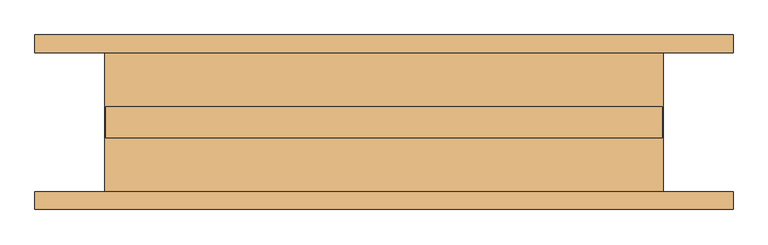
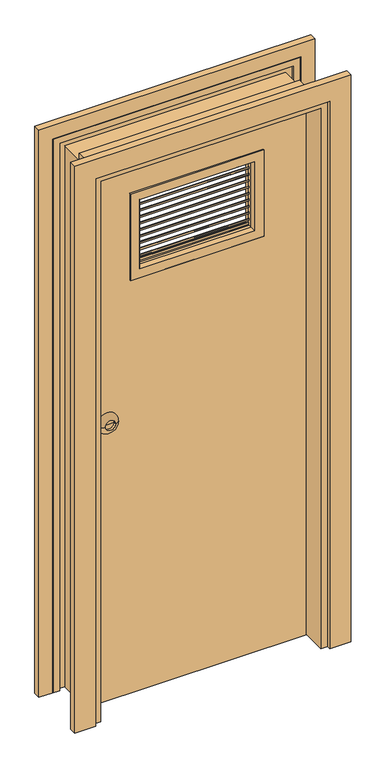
"""IFC4 building model written with IfcOpenShell, lengths in millimetres: door geometry, Door_Amweld_Integral_Louvers : Door_Amweld_Integral_Louvers."""

from ifc_helpers import new_model, si_unit, point, frame, origin, place, context, project, spatial, polyline, circle_curve, ellipse_curve, trimmed, outline, extrude, faceted_brep, source, transform, mapped, element, save
from ifc_brep_helpers import plane_surface, revolved_surface, advanced_brep


def door_bb8a4608(model_context):
    return source(origin(), model_context, "Body", "SolidModel", [
        advanced_brep(
        [(-361.9, 22.225, 1066.8), (-323.8, 22.225, 1066.8), (-285.7, 22.225, 1066.8), (-342.85, 41.275, 1066.8), (-304.75, 41.275, 1066.8), (-342.85, 31.75, 1066.8), (-304.75, 31.75, 1066.8), (-323.8, 31.75, 1066.8)],
        [
            (0, 1),
            (1, 2),
            (2, 0, circle_curve(frame((-323.8, 22.225, 1066.8), z_axis=(0.0, -1.0, 0.0), x_axis=(1.0, 0.0, 0.0)), 38.1)),
            (0, 2, circle_curve(frame((-323.8, 22.225, 1066.8), z_axis=(0.0, -1.0, 0.0), x_axis=(1.0, 0.0, 0.0)), 38.1)),
            (3, 0, circle_curve(frame((-342.85, 22.225, 1066.8), z_axis=(0.0, 0.0, 1.0), x_axis=(-1.0, 0.0, 0.0)), 19.05)),
            (2, 4, circle_curve(frame((-304.75, 22.225, 1066.8), z_axis=(0.0, 0.0, 1.0), x_axis=(1.0, 0.0, 0.0)), 19.05)),
            (4, 3, circle_curve(frame((-323.8, 41.275, 1066.8), z_axis=(0.0, -1.0, 0.0), x_axis=(1.0, 0.0, 0.0)), 19.05)),
            (3, 4, circle_curve(frame((-323.8, 41.275, 1066.8), z_axis=(0.0, -1.0, 0.0), x_axis=(1.0, 0.0, 0.0)), 19.05)),
            (5, 3),
            (4, 6),
            (6, 5, circle_curve(frame((-323.8, 31.75, 1066.8), z_axis=(0.0, -1.0, 0.0), x_axis=(1.0, 0.0, 0.0)), 19.05)),
            (5, 6, circle_curve(frame((-323.8, 31.75, 1066.8), z_axis=(0.0, -1.0, 0.0), x_axis=(1.0, 0.0, 0.0)), 19.05)),
            (7, 5),
            (6, 7),
        ],
        [
            plane_surface(frame((-323.8, 22.225, 1066.8), z_axis=(0.0, -1.0, 0.0), x_axis=(1.0, 0.0, 0.0))),
            revolved_surface(trimmed(ellipse_curve(frame((-304.75, 22.225, 1066.8), z_axis=(0.0, 0.0, 1.0), x_axis=(1.0, 0.0, 0.0)), 19.05, 19.05), [point((-285.7, 22.225, 1066.8))], [point((-304.75, 41.275, 1066.8))], True, "CARTESIAN"), (-323.8, 22.225, 1066.8), (0.0, 1.0, 0.0)),
            revolved_surface(polyline([(-304.75, 41.275, 1066.8), (-304.75, 31.75, 1066.8)]), (-323.8, 22.225, 1066.8), (0.0, 1.0, 0.0)),
            plane_surface(frame((-323.8, 31.75, 1066.8), z_axis=(0.0, 1.0, 0.0), x_axis=(1.0, 0.0, 0.0))),
        ],
        [
            (0, [[1, 2, 3]]),
            (0, [[-2, -1, 4]]),
            (1, [[5, -3, 6, 7]]),
            (1, [[-6, -4, -5, 8]]),
            (2, [[9, -7, 10, 11]]),
            (2, [[-10, -8, -9, 12]]),
            (3, [[13, -11, 14]]),
            (3, [[-14, -12, -13]]),
        ],
    ),
        advanced_brep(
        [(-285.7, -22.225, 1066.8), (-323.8, -22.225, 1066.8), (-361.9, -22.225, 1066.8), (-304.75, -41.275, 1066.8), (-342.85, -41.275, 1066.8), (-304.75, -31.75, 1066.8), (-342.85, -31.75, 1066.8), (-323.8, -31.75, 1066.8)],
        [
            (0, 1),
            (1, 2),
            (2, 0, circle_curve(frame((-323.8, -22.225, 1066.8), z_axis=(0.0, 1.0, 0.0), x_axis=(-1.0, 0.0, 0.0)), 38.1)),
            (0, 2, circle_curve(frame((-323.8, -22.225, 1066.8), z_axis=(0.0, 1.0, 0.0), x_axis=(-1.0, 0.0, 0.0)), 38.1)),
            (3, 0, circle_curve(frame((-304.75, -22.225, 1066.8), z_axis=(0.0, 0.0, 1.0), x_axis=(1.0, 0.0, 0.0)), 19.05)),
            (2, 4, circle_curve(frame((-342.85, -22.225, 1066.8), z_axis=(0.0, 0.0, 1.0), x_axis=(-1.0, 0.0, 0.0)), 19.05)),
            (4, 3, circle_curve(frame((-323.8, -41.275, 1066.8), z_axis=(0.0, 1.0, 0.0), x_axis=(-1.0, 0.0, 0.0)), 19.05)),
            (3, 4, circle_curve(frame((-323.8, -41.275, 1066.8), z_axis=(0.0, 1.0, 0.0), x_axis=(-1.0, 0.0, 0.0)), 19.05)),
            (5, 3),
            (4, 6),
            (6, 5, circle_curve(frame((-323.8, -31.75, 1066.8), z_axis=(0.0, 1.0, 0.0), x_axis=(-1.0, 0.0, 0.0)), 19.05)),
            (5, 6, circle_curve(frame((-323.8, -31.75, 1066.8), z_axis=(0.0, 1.0, 0.0), x_axis=(-1.0, 0.0, 0.0)), 19.05)),
            (7, 5),
            (6, 7),
        ],
        [
            plane_surface(frame((-323.8, -22.225, 1066.8), z_axis=(0.0, 1.0, 0.0), x_axis=(-1.0, 0.0, 0.0))),
            revolved_surface(trimmed(ellipse_curve(frame((-342.85, -22.225, 1066.8), z_axis=(0.0, 0.0, 1.0), x_axis=(-1.0, 0.0, 0.0)), 19.05, 19.05), [point((-361.9, -22.225, 1066.8))], [point((-342.85, -41.275, 1066.8))], True, "CARTESIAN"), (-323.8, -22.225, 1066.8), (0.0, -1.0, 0.0)),
            revolved_surface(polyline([(-342.85, -41.275, 1066.8), (-342.85, -31.75, 1066.8)]), (-323.8, -22.225, 1066.8), (0.0, -1.0, 0.0)),
            plane_surface(frame((-323.8, -31.75, 1066.8), z_axis=(0.0, -1.0, 0.0), x_axis=(-1.0, 0.0, 0.0))),
        ],
        [
            (0, [[1, 2, 3]]),
            (0, [[-2, -1, 4]]),
            (1, [[5, -3, 6, 7]]),
            (1, [[-6, -4, -5, 8]]),
            (2, [[9, -7, 10, 11]]),
            (2, [[-10, -8, -9, 12]]),
            (3, [[13, -11, 14]]),
            (3, [[-14, -12, -13]]),
        ],
    ),
        faceted_brep([(400.0, -112.7, 0.0), (400.0, 112.7, 0.0), (450.8, 112.7, 0.0), (450.8, 100.0, 0.0), (449.4109375, 100.0, 0.0), (449.4109375, 111.3109375, 0.0), (401.3890625, 111.3109375, 0.0), (401.3890625, -111.3109375, 0.0), (449.4109375, -111.3109375, 0.0), (449.4109375, -100.0, 0.0), (450.8, -100.0, 0.0), (450.8, -112.7, 0.0), (450.8, -112.7, 2125.4), (-450.8, -112.7, 2125.4), (-450.8, -112.7, 0.0), (-400.0, -112.7, 0.0), (-400.0, -112.7, 2074.6), (400.0, -112.7, 2074.6), (450.8, -100.0, 2125.4), (449.4109375, -100.0, 2124.0109375), (-449.4109375, -100.0, 2124.0109375), (-449.4109375, -100.0, 0.0), (-450.8, -100.0, 0.0), (-450.8, -100.0, 2125.4), (449.4109375, -111.3109375, 2124.0109375), (401.3890625, -111.3109375, 2075.9890625), (-401.3890625, -111.3109375, 2075.9890625), (-401.3890625, -111.3109375, 0.0), (-449.4109375, -111.3109375, 0.0), (-449.4109375, -111.3109375, 2124.0109375), (401.3890625, 111.3109375, 2075.9890625), (449.4109375, 111.3109375, 2124.0109375), (-449.4109375, 111.3109375, 2124.0109375), (-449.4109375, 111.3109375, 0.0), (-401.3890625, 111.3109375, 0.0), (-401.3890625, 111.3109375, 2075.9890625), (449.4109375, 100.0, 2124.0109375), (450.8, 100.0, 2125.4), (-450.8, 100.0, 2125.4), (-450.8, 100.0, 0.0), (-449.4109375, 100.0, 0.0), (-449.4109375, 100.0, 2124.0109375), (450.8, 112.7, 2125.4), (400.0, 112.7, 2074.6), (-400.0, 112.7, 2074.6), (-400.0, 112.7, 0.0), (-450.8, 112.7, 0.0), (-450.8, 112.7, 2125.4)], [[[0, 1, 2, 3, 4, 5, 6, 7, 8, 9, 10, 11]], [[11, 12, 13, 14, 15, 16, 17, 0]], [[10, 18, 12, 11]], [[9, 19, 20, 21, 22, 23, 18, 10]], [[8, 24, 19, 9]], [[7, 25, 26, 27, 28, 29, 24, 8]], [[6, 30, 25, 7]], [[5, 31, 32, 33, 34, 35, 30, 6]], [[4, 36, 31, 5]], [[3, 37, 38, 39, 40, 41, 36, 4]], [[2, 42, 37, 3]], [[1, 43, 44, 45, 46, 47, 42, 2]], [[0, 17, 43, 1]], [[18, 23, 13, 12]], [[24, 29, 20, 19]], [[30, 35, 26, 25]], [[36, 41, 32, 31]], [[42, 47, 38, 37]], [[17, 16, 44, 43]], [[15, 14, 22, 21, 28, 27, 34, 33, 40, 39, 46, 45]], [[23, 22, 14, 13]], [[29, 28, 21, 20]], [[35, 34, 27, 26]], [[41, 40, 33, 32]], [[47, 46, 39, 38]], [[16, 15, 45, 44]]]),
        extrude(outline(polyline([(22.225, 1627.7635677), (22.225, 1633.1970242), (-4.7625001, 1648.7782646), (-4.7625001, 1655.1282646), (-3.175, 1655.1282646), (-3.175, 1649.6948081), (23.8125, 1634.1135677), (23.8125, 1627.7635677), (22.225, 1627.7635677)])), frame((-202.009375, 0.0, 0.0), z_axis=(1.0, 0.0, 0.0), x_axis=(0.0, 1.0, 0.0)), (0.0, 0.0, 1.0), 404.01875),
        extrude(outline(polyline([(22.225, 1652.5526697), (22.225, 1657.9861261), (-4.7625001, 1673.5673665), (-4.7625001, 1679.9173665), (-3.175, 1679.9173665), (-3.175, 1674.4839101), (23.8125, 1658.9026697), (23.8125, 1652.5526697), (22.225, 1652.5526697)])), frame((-202.009375, 0.0, 0.0), z_axis=(1.0, 0.0, 0.0), x_axis=(0.0, 1.0, 0.0)), (0.0, 0.0, 1.0), 404.01875),
        extrude(outline(polyline([(22.225, 1677.3417717), (22.225, 1682.7752281), (-4.7625001, 1698.3564685), (-4.7625001, 1704.7064685), (-3.175, 1704.7064685), (-3.175, 1699.2730121), (23.8125, 1683.6917717), (23.8125, 1677.3417717), (22.225, 1677.3417717)])), frame((-202.009375, 0.0, 0.0), z_axis=(1.0, 0.0, 0.0), x_axis=(0.0, 1.0, 0.0)), (0.0, 0.0, 1.0), 404.01875),
        extrude(outline(polyline([(22.225, 1702.1308736), (22.225, 1707.5643301), (-4.7625001, 1723.1455705), (-4.7625001, 1729.4955705), (-3.175, 1729.4955705), (-3.175, 1724.062114), (23.8125, 1708.4808736), (23.8125, 1702.1308736), (22.225, 1702.1308736)])), frame((-202.009375, 0.0, 0.0), z_axis=(1.0, 0.0, 0.0), x_axis=(0.0, 1.0, 0.0)), (0.0, 0.0, 1.0), 404.01875),
        extrude(outline(polyline([(22.225, 1726.9199756), (22.225, 1732.353432), (-4.7625001, 1747.9346724), (-4.7625001, 1754.2846724), (-3.175, 1754.2846724), (-3.175, 1748.851216), (23.8125, 1733.2699756), (23.8125, 1726.9199756), (22.225, 1726.9199756)])), frame((-202.009375, 0.0, 0.0), z_axis=(1.0, 0.0, 0.0), x_axis=(0.0, 1.0, 0.0)), (0.0, 0.0, 1.0), 404.01875),
        extrude(outline(polyline([(22.225, 1751.7090776), (22.225, 1757.142534), (-4.7625001, 1772.7237744), (-4.7625001, 1779.0737744), (-3.175, 1779.0737744), (-3.175, 1773.640318), (23.8125, 1758.0590776), (23.8125, 1751.7090776), (22.225, 1751.7090776)])), frame((-202.009375, 0.0, 0.0), z_axis=(1.0, 0.0, 0.0), x_axis=(0.0, 1.0, 0.0)), (0.0, 0.0, 1.0), 404.01875),
        extrude(outline(polyline([(22.225, 1776.4981795), (22.225, 1781.931636), (-4.7625001, 1797.5128764), (-4.7625001, 1803.8628764), (-3.175, 1803.8628764), (-3.175, 1798.4294199), (23.8125, 1782.8481795), (23.8125, 1776.4981795), (22.225, 1776.4981795)])), frame((-202.009375, 0.0, 0.0), z_axis=(1.0, 0.0, 0.0), x_axis=(0.0, 1.0, 0.0)), (0.0, 0.0, 1.0), 404.01875),
        extrude(outline(polyline([(22.225, 1801.2872815), (22.225, 1806.7207379), (-4.7625001, 1822.3019783), (-4.7625001, 1828.6519783), (-3.175, 1828.6519783), (-3.175, 1823.2185219), (23.8125, 1807.6372815), (23.8125, 1801.2872815), (22.225, 1801.2872815)])), frame((-202.009375, 0.0, 0.0), z_axis=(1.0, 0.0, 0.0), x_axis=(0.0, 1.0, 0.0)), (0.0, 0.0, 1.0), 404.01875),
        extrude(outline(polyline([(22.225, 1826.0763835), (22.225, 1831.5098399), (-4.7625001, 1847.0910803), (-4.7625001, 1853.4410803), (-3.175, 1853.4410803), (-3.175, 1848.0076239), (23.8125, 1832.4263835), (23.8125, 1826.0763835), (22.225, 1826.0763835)])), frame((-202.009375, 0.0, 0.0), z_axis=(1.0, 0.0, 0.0), x_axis=(0.0, 1.0, 0.0)), (0.0, 0.0, 1.0), 404.01875),
        extrude(outline(polyline([(22.225, 1850.8654854), (22.225, 1856.2989419), (-4.7625001, 1871.8801823), (-4.7625001, 1878.2301823), (-3.175, 1878.2301823), (-3.175, 1872.7967258), (23.8125, 1857.2154854), (23.8125, 1850.8654854), (22.225, 1850.8654854)])), frame((-202.009375, 0.0, 0.0), z_axis=(1.0, 0.0, 0.0), x_axis=(0.0, 1.0, 0.0)), (0.0, 0.0, 1.0), 404.01875),
        extrude(outline(polyline([(14.2875, 1627.7635677), (14.2875, 1618.2385677), (7.9375, 1618.2385677), (7.9375, 1619.0323177), (13.49375, 1619.0323177), (13.49375, 1627.7635677), (14.2875, 1627.7635677)])), frame((-209.55, 0.0, 0.0), z_axis=(1.0, 0.0, 0.0), x_axis=(0.0, 1.0, 0.0)), (0.0, 0.0, 1.0), 419.1),
        extrude(outline(polyline([(25.9071808, 1618.2385677), (25.9071808, 1609.5073177), (25.1134308, 1609.5073177), (25.1134308, 1617.4448177), (-21.7178192, 1617.4448177), (-21.7178192, 1618.2385677), (25.9071808, 1618.2385677)])), frame((-226.4364323, 0.0, 0.0), z_axis=(1.0, 0.0, 0.0), x_axis=(0.0, 1.0, 0.0)), (0.0, 0.0, 1.0), 452.8728646),
        faceted_brep([(-210.5614323, -16.9553192, 1618.2385677), (-226.4364323, -16.9553192, 1618.2385677), (-226.4364323, -16.1615692, 1618.2385677), (-211.3551823, -16.1615692, 1618.2385677), (-211.3551823, 25.1134308, 1618.2385677), (-226.4364323, 25.1134308, 1618.2385677), (-226.4364323, 25.9071808, 1618.2385677), (-210.5614323, 25.9071808, 1618.2385677), (-210.5614323, 25.9071808, 1886.9614323), (-210.5614323, -16.9553192, 1886.9614323), (-226.4364323, 25.9071808, 1902.8364323), (226.4364323, 25.9071808, 1902.8364323), (226.4364323, 25.9071808, 1618.2385677), (210.5614323, 25.9071808, 1618.2385677), (210.5614323, 25.9071808, 1886.9614323), (-226.4364323, 25.1134308, 1902.8364323), (-211.3551823, 25.1134308, 1887.7551823), (211.3551823, 25.1134308, 1887.7551823), (211.3551823, 25.1134308, 1618.2385677), (226.4364323, 25.1134308, 1618.2385677), (226.4364323, 25.1134308, 1902.8364323), (-211.3551823, -16.1615692, 1887.7551823), (-226.4364323, -16.1615692, 1902.8364323), (226.4364323, -16.1615692, 1902.8364323), (226.4364323, -16.1615692, 1618.2385677), (211.3551823, -16.1615692, 1618.2385677), (211.3551823, -16.1615692, 1887.7551823), (-226.4364323, -16.9553192, 1902.8364323), (210.5614323, -16.9553192, 1886.9614323), (210.5614323, -16.9553192, 1618.2385677), (226.4364323, -16.9553192, 1618.2385677), (226.4364323, -16.9553192, 1902.8364323)], [[[0, 1, 2, 3, 4, 5, 6, 7]], [[7, 8, 9, 0]], [[6, 10, 11, 12, 13, 14, 8, 7]], [[5, 15, 10, 6]], [[4, 16, 17, 18, 19, 20, 15, 5]], [[3, 21, 16, 4]], [[2, 22, 23, 24, 25, 26, 21, 3]], [[1, 27, 22, 2]], [[0, 9, 28, 29, 30, 31, 27, 1]], [[8, 14, 28, 9]], [[15, 20, 11, 10]], [[21, 26, 17, 16]], [[27, 31, 23, 22]], [[29, 13, 12, 19, 18, 25, 24, 30]], [[14, 13, 29, 28]], [[20, 19, 12, 11]], [[26, 25, 18, 17]], [[31, 30, 24, 23]]]),
        faceted_brep([(208.75625, -5.55625, 1885.15625), (208.75625, -5.55625, 1620.04375), (208.75625, -27.78125, 1620.04375), (208.75625, -27.78125, 1885.15625), (209.55, -26.9875, 1885.95), (209.55, -26.9875, 1619.25), (209.55, -5.55625, 1619.25), (209.55, -5.55625, 1885.95), (241.3, -22.225, 1917.7), (241.3, -22.225, 1587.5), (241.3, -26.9875, 1587.5), (241.3, -26.9875, 1917.7), (242.09375, -27.78125, 1918.49375), (242.09375, -27.78125, 1586.70625), (242.09375, -22.225, 1586.70625), (242.09375, -22.225, 1918.49375), (-208.75625, -5.55625, 1620.04375), (-208.75625, -27.78125, 1620.04375), (-209.55, -26.9875, 1619.25), (-209.55, -5.55625, 1619.25), (-241.3, -22.225, 1587.5), (-241.3, -26.9875, 1587.5), (-242.09375, -27.78125, 1586.70625), (-242.09375, -22.225, 1586.70625), (-208.75625, -5.55625, 1885.15625), (-208.75625, -27.78125, 1885.15625), (-209.55, -26.9875, 1885.95), (-209.55, -5.55625, 1885.95), (-241.3, -22.225, 1917.7), (-241.3, -26.9875, 1917.7), (-242.09375, -27.78125, 1918.49375), (-242.09375, -22.225, 1918.49375)], [[[0, 1, 2, 3]], [[4, 5, 6, 7]], [[8, 9, 10, 11]], [[12, 13, 14, 15]], [[1, 16, 17, 2]], [[5, 18, 19, 6]], [[9, 20, 21, 10]], [[13, 22, 23, 14]], [[16, 24, 25, 17]], [[18, 26, 27, 19]], [[20, 28, 29, 21]], [[22, 30, 31, 23]], [[24, 0, 3, 25]], [[7, 6, 19, 27], [1, 0, 24, 16]], [[26, 4, 7, 27]], [[11, 10, 21, 29], [5, 4, 26, 18]], [[28, 8, 11, 29]], [[15, 14, 23, 31], [9, 8, 28, 20]], [[30, 12, 15, 31]], [[13, 12, 30, 22], [3, 2, 17, 25]]]),
        faceted_brep([(242.09375, 22.225, 1918.49375), (242.09375, 22.225, 1586.70625), (242.09375, 27.78125, 1586.70625), (242.09375, 27.78125, 1918.49375), (241.3, 26.9875, 1917.7), (241.3, 26.9875, 1587.5), (241.3, 22.225, 1587.5), (241.3, 22.225, 1917.7), (209.55, 27.78125, 1885.95), (209.55, 27.78125, 1619.25), (209.55, 26.9875, 1619.25), (209.55, 26.9875, 1885.95), (-242.09375, 22.225, 1586.70625), (-242.09375, 27.78125, 1586.70625), (-241.3, 26.9875, 1587.5), (-241.3, 22.225, 1587.5), (-209.55, 27.78125, 1619.25), (-209.55, 26.9875, 1619.25), (-242.09375, 22.225, 1918.49375), (-242.09375, 27.78125, 1918.49375), (-241.3, 26.9875, 1917.7), (-241.3, 22.225, 1917.7), (-209.55, 27.78125, 1885.95), (-209.55, 26.9875, 1885.95)], [[[0, 1, 2, 3]], [[4, 5, 6, 7]], [[8, 9, 10, 11]], [[1, 12, 13, 2]], [[5, 14, 15, 6]], [[9, 16, 17, 10]], [[12, 18, 19, 13]], [[14, 20, 21, 15]], [[16, 22, 23, 17]], [[18, 0, 3, 19]], [[1, 0, 18, 12], [7, 6, 15, 21]], [[20, 4, 7, 21]], [[5, 4, 20, 14], [11, 10, 17, 23]], [[22, 8, 11, 23]], [[3, 2, 13, 19], [9, 8, 22, 16]]]),
        faceted_brep([(-210.5614323, 23.8125, 1618.2385677), (-209.7676823, 23.8125, 1618.2385677), (-209.7676823, 15.875, 1618.2385677), (-201.8301823, 15.875, 1618.2385677), (-201.8301823, 15.08125, 1618.2385677), (-210.5614323, 15.08125, 1618.2385677), (-210.5614323, 15.08125, 1886.9614323), (-210.5614323, 23.8125, 1886.9614323), (-201.8301823, 15.08125, 1878.2301823), (201.8301823, 15.08125, 1878.2301823), (201.8301823, 15.08125, 1618.2385677), (210.5614323, 15.08125, 1618.2385677), (210.5614323, 15.08125, 1886.9614323), (-201.8301823, 15.875, 1878.2301823), (-209.7676823, 15.875, 1886.1676823), (209.7676823, 15.875, 1886.1676823), (209.7676823, 15.875, 1618.2385677), (201.8301823, 15.875, 1618.2385677), (201.8301823, 15.875, 1878.2301823), (-209.7676823, 23.8125, 1886.1676823), (210.5614323, 23.8125, 1886.9614323), (210.5614323, 23.8125, 1618.2385677), (209.7676823, 23.8125, 1618.2385677), (209.7676823, 23.8125, 1886.1676823)], [[[0, 1, 2, 3, 4, 5]], [[5, 6, 7, 0]], [[4, 8, 9, 10, 11, 12, 6, 5]], [[3, 13, 8, 4]], [[2, 14, 15, 16, 17, 18, 13, 3]], [[1, 19, 14, 2]], [[0, 7, 20, 21, 22, 23, 19, 1]], [[6, 12, 20, 7]], [[13, 18, 9, 8]], [[19, 23, 15, 14]], [[21, 11, 10, 17, 16, 22]], [[12, 11, 21, 20]], [[18, 17, 10, 9]], [[23, 22, 16, 15]]]),
        extrude(outline(polyline([(2100.0, -425.4), (2100.0, 425.4), (0.0, 425.4), (0.0, 501.6), (2176.2, 501.6), (2176.2, -501.6), (0.0, -501.6), (0.0, -425.4), (2100.0, -425.4)])), frame((0.0, 100.0, 0.0), z_axis=(0.0, 1.0, 0.0), x_axis=(0.0, 0.0, 1.0)), (0.0, 0.0, 1.0), 25.4),
        extrude(outline(polyline([(2100.0, -425.4), (2100.0, 425.4), (0.0, 425.4), (0.0, 501.6), (2176.2, 501.6), (2176.2, -501.6), (0.0, -501.6), (0.0, -425.4), (2100.0, -425.4)])), frame((0.0, -125.4, 0.0), z_axis=(0.0, 1.0, 0.0), x_axis=(0.0, 0.0, 1.0)), (0.0, 0.0, 1.0), 25.4),
        extrude(outline(polyline([(2100.0, -400.0), (0.0, -400.0), (0.0, 400.0), (2100.0, 400.0), (2100.0, -400.0)]), holes=[polyline([(1905.0, -228.6), (1905.0, 228.6), (1600.2, 228.6), (1600.2, -228.6), (1905.0, -228.6)])]), frame((0.0, -22.225, 0.0), z_axis=(0.0, 1.0, 0.0), x_axis=(0.0, 0.0, 1.0)), (0.0, 0.0, 1.0), 44.45),
    ])


if __name__ == "__main__":
    model = new_model("IFC4")
    model_context = context("Model", 3, world=origin())
    ifc_project = project(units=[si_unit("LENGTHUNIT", "METRE", prefix="MILLI")], contexts=[model_context])
    site = spatial("IfcSite", under=ifc_project)
    building = spatial("IfcBuilding", under=site)
    placement = place(None, origin())
    door_shape = door_bb8a4608(model_context)
    element("IfcDoor", 1, ObjectType="Door_Amweld_Integral_Louvers : Door_Amweld_Integral_Louvers", at=placement, inside=building, context=model_context, shape_type="MappedRepresentation", body=[
        mapped(door_shape, transform((0.0, 0.0, 0.0), x_axis=(1.0, 0.0, 0.0), y_axis=(0.0, 1.0, 0.0), z_axis=(0.0, 0.0, 1.0))),
    ])
    save(model, "model.ifc")
